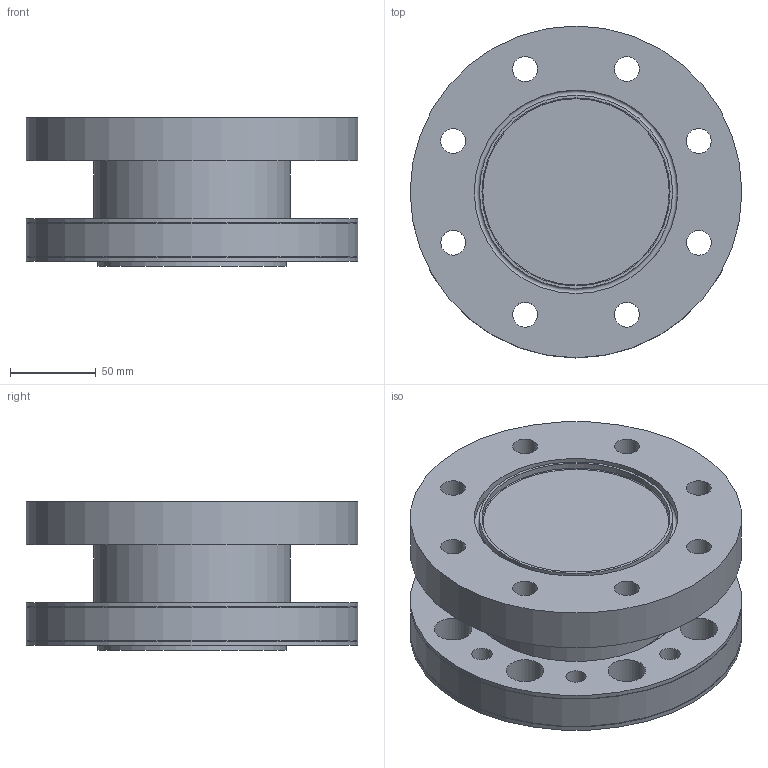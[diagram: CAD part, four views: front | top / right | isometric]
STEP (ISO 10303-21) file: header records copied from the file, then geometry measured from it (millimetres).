
FILE_DESCRIPTION(/* description */ (''),/* implementation_level */ '2;1');
FILE_NAME(/* name */ 'F:\Sensorik\Standard_Messflansche\XtreMA_NEW\Vertrieb\BG4\XtreMA_BG4_NEW_V.stp',/* time_stamp */ '2022-01-26T11:11:58+01:00',/* author */ ('Lander'),/* organization */ (''),/* preprocessor_version */ 'ST-DEVELOPER v18.1',/* originating_system */ 'Autodesk Inventor 2021',/* authorisation */ '');
FILE_SCHEMA (('AUTOMOTIVE_DESIGN { 1 0 10303 214 3 1 1 }'));
Length unit declared in the file: millimetre
Products named in the file (1): XtreMA_BG2_500Nm_HBM
Bounding box: 194 x 194 x 86.8 mm (x, y, z)
Volume: 1653492.4 mm3; surface area: 178773.1 mm2
Topology: 1 solids, 1 shells, 54 faces, 134 edges, 88 vertices
Faces by surface type: cylinder 37, plane 8, torus 7, cone 2
Full cylindrical faces by diameter (mm): 11.835 x8, 14.5 x8, 22 x8, 110 x2, 111 x1, 113 x1, 115 x1, 117 x1, 119 x1, 123 x2, 193.8 x1, 194 x3
Entity records: 1810 total; most frequent: DIRECTION 339, CARTESIAN_POINT 277, ORIENTED_EDGE 268, AXIS2_PLACEMENT_3D 150, EDGE_CURVE 134, EDGE_LOOP 108, CIRCLE 95, VERTEX_POINT 88
